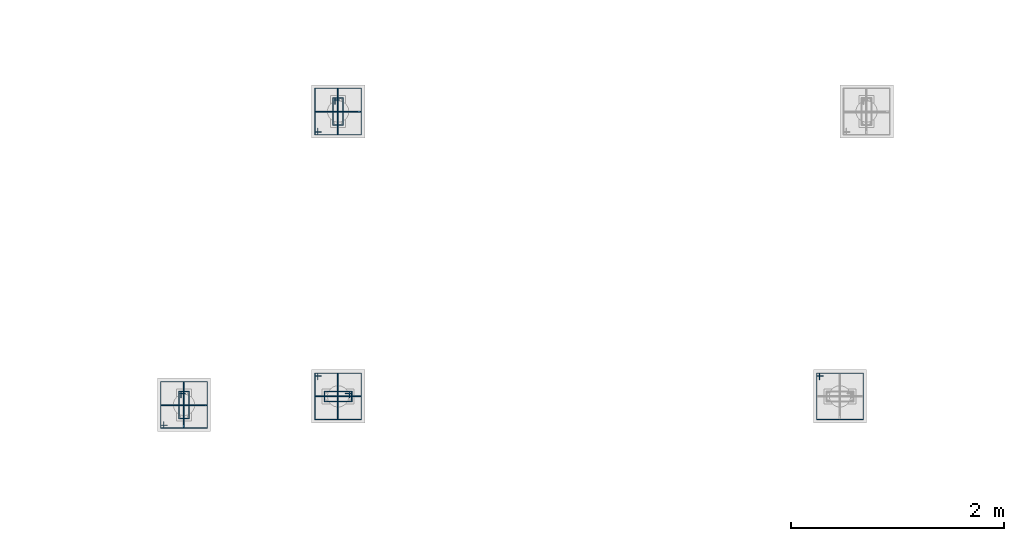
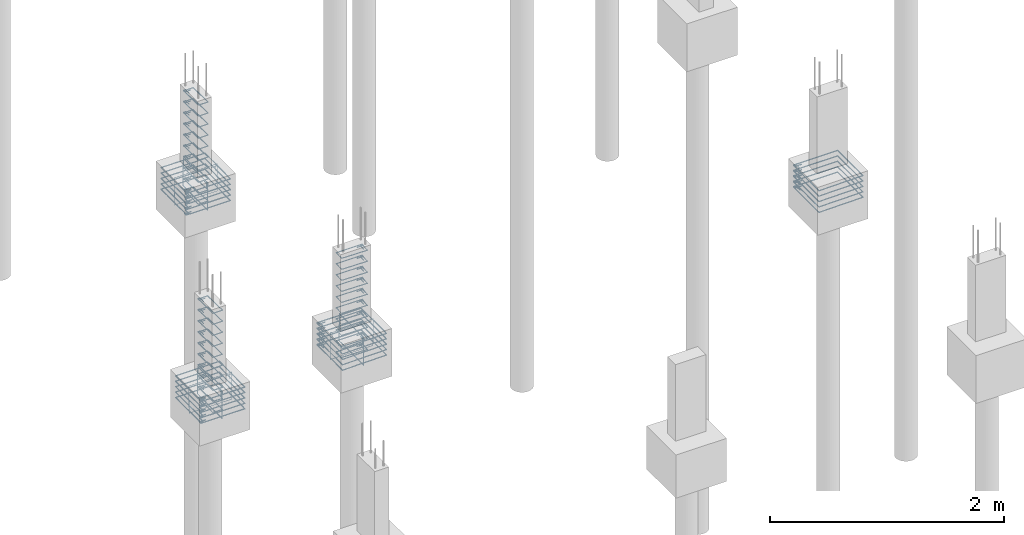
# One storey, part 109 of 119: 56 reinforcing bars.
"""IFC4 building model written with IfcOpenShell, lengths in centimetres."""

from ifc_helpers import new_model, entity, si_unit, derived_unit, frame, origin_with_axes, place, context, project, spatial, source, transform, mapped, element, save


model = new_model("IFC4")

# Units and contexts
model_context = context("Model", 3, precision=1e-05, world=origin_with_axes(), identifier="Body")
ifc_project = project(units=[si_unit("LENGTHUNIT", "METRE", prefix="CENTI"), si_unit("VOLUMEUNIT", "CUBIC_METRE"), si_unit("AREAUNIT", "SQUARE_METRE"), si_unit("POWERUNIT", "WATT"), si_unit("LUMINOUSFLUXUNIT", "LUMEN"), si_unit("ELECTRICCURRENTUNIT", "AMPERE"), si_unit("PRESSUREUNIT", "PASCAL", prefix="KILO"), si_unit("MASSUNIT", "GRAM", prefix="KILO"), si_unit("PLANEANGLEUNIT", "RADIAN"), derived_unit("VOLUMETRICFLOWRATEUNIT", [(si_unit("LENGTHUNIT", "METRE"), 3), (si_unit("TIMEUNIT", "SECOND"), -1)])], contexts=[model_context])

# Site, building, storey
site_placement = place(None, frame((-4000.0, 0.0, 0.0), z_axis=(0.0, 0.0, 1.0), x_axis=(1.0, 0.0, 0.0)))
site = spatial("IfcSite", under=ifc_project, at=site_placement, Name="PADRÃO")
building_placement = place(site_placement, frame((0.0, 0.0, -14.0)))
building = spatial("IfcBuilding", under=site, at=building_placement, Name="CRECHE PRÉ-ESCOLA TIPO 2")
storey_placement = place(building_placement, origin_with_axes())
storey = spatial("IfcBuildingStorey", under=building, at=storey_placement, Name="FUNDAÇÃO", CompositionType="ELEMENT", Elevation=-14.0)

# Reinforcing bars
shared_shape_1 = source(origin_with_axes(), model_context, "Body", "AdvancedSweptSolid", [
    entity("IfcSweptDiskSolid", entity("IfcCompositeCurve", [entity("IfcCompositeCurveSegment", "CONTINUOUS", True, entity("IfcPolyline", [entity("IfcCartesianPoint", [4.25, 21.75, 0.0]), entity("IfcCartesianPoint", [4.25, 27.75, 0.0])])), entity("IfcCompositeCurveSegment", "CONTINUOUS", True, entity("IfcPolyline", [entity("IfcCartesianPoint", [4.25, 27.75, 0.0]), entity("IfcCartesianPoint", [2.25, 27.75, 0.0])])), entity("IfcCompositeCurveSegment", "CONTINUOUS", True, entity("IfcPolyline", [entity("IfcCartesianPoint", [2.25, 27.75, 0.0]), entity("IfcCartesianPoint", [2.25, 2.25, 0.0])])), entity("IfcCompositeCurveSegment", "CONTINUOUS", True, entity("IfcPolyline", [entity("IfcCartesianPoint", [2.25, 2.25, 0.0]), entity("IfcCartesianPoint", [11.75, 2.25, 0.0])])), entity("IfcCompositeCurveSegment", "CONTINUOUS", True, entity("IfcPolyline", [entity("IfcCartesianPoint", [11.75, 2.25, 0.0]), entity("IfcCartesianPoint", [11.75, 27.75, -0.5])])), entity("IfcCompositeCurveSegment", "CONTINUOUS", True, entity("IfcPolyline", [entity("IfcCartesianPoint", [11.75, 27.75, -0.5]), entity("IfcCartesianPoint", [2.25, 27.75, -0.5])])), entity("IfcCompositeCurveSegment", "CONTINUOUS", True, entity("IfcPolyline", [entity("IfcCartesianPoint", [2.25, 27.75, -0.5]), entity("IfcCartesianPoint", [2.25, 25.75, -0.5])])), entity("IfcCompositeCurveSegment", "CONTINUOUS", True, entity("IfcPolyline", [entity("IfcCartesianPoint", [2.25, 25.75, -0.5]), entity("IfcCartesianPoint", [8.25, 25.75, -0.5])]))], False), 0.25),
])
for number, where, z_axis, x_axis, name in (
    (1, (2661.0, 3449.58, -5.75), (0.0, 0.0, 1.0), (1.0, 0.0, 0.0), "P43 - Estribo"),
    (2, (2661.0, 3449.58, -17.25), (0.0, 0.0, 1.0), (1.0, 0.0, 0.0), "P43 - Estribo"),
    (3, (2661.0, 3449.58, -40.25), (0.0, 0.0, 1.0), (1.0, 0.0, 0.0), "P43 - Estribo"),
    (4, (2661.0, 3449.58, -51.75), (0.0, 0.0, 1.0), (1.0, 0.0, 0.0), "P43 - Estribo"),
    (5, (2661.0, 3449.58, -63.25), (0.0, 0.0, 1.0), (1.0, 0.0, 0.0), "P43 - Estribo"),
    (6, (2661.0, 3449.58, -74.75), (0.0, 0.0, 1.0), (1.0, 0.0, 0.0), "P43 - Estribo"),
    (7, (2661.0, 3449.58, -86.25), (0.0, 0.0, 1.0), (1.0, 0.0, 0.0), "P43 - Estribo"),
    (8, (2661.0, 3449.58, -97.75), (0.0, 0.0, 1.0), (1.0, 0.0, 0.0), "P43 - Estribo"),
    (9, (2661.0, 3449.58, -109.25), (0.0, 0.0, 1.0), (1.0, 0.0, 0.0), "P43 - Estribo"),
    (10, (2661.0, 3449.58, -28.75), (0.0, 0.0, 1.0), (1.0, 0.0, 0.0), "P43 - Estribo"),
):
    element("IfcReinforcingBar", number, at=place(storey_placement, frame(where, z_axis=z_axis, x_axis=x_axis)), inside=storey, Name=name, BarLength=0.0, CrossSectionArea=1.9634954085e-05, NominalDiameter=0.5, PredefinedType="MAIN", context=model_context, shape_type="MappedRepresentation", body=[
        mapped(shared_shape_1, transform((0.0, 0.0, 0.0), scale=1.0)),
    ])
shared_shape_2 = source(origin_with_axes(), model_context, "Body", "AdvancedSweptSolid", [
    entity("IfcSweptDiskSolid", entity("IfcCompositeCurve", [entity("IfcCompositeCurveSegment", "CONTINUOUS", True, entity("IfcPolyline", [entity("IfcCartesianPoint", [2652.575, 3445.415, 0.0]), entity("IfcCartesianPoint", [2646.315, 3445.415, 0.0])])), entity("IfcCompositeCurveSegment", "CONTINUOUS", True, entity("IfcPolyline", [entity("IfcCartesianPoint", [2646.315, 3445.415, 0.0]), entity("IfcCartesianPoint", [2646.315, 3442.895, 0.0])])), entity("IfcCompositeCurveSegment", "CONTINUOUS", True, entity("IfcPolyline", [entity("IfcCartesianPoint", [2646.315, 3442.895, 0.0]), entity("IfcCartesianPoint", [2689.685, 3442.895, 0.0])])), entity("IfcCompositeCurveSegment", "CONTINUOUS", True, entity("IfcPolyline", [entity("IfcCartesianPoint", [2689.685, 3442.895, 0.0]), entity("IfcCartesianPoint", [2689.685, 3486.265, 0.63])])), entity("IfcCompositeCurveSegment", "CONTINUOUS", True, entity("IfcPolyline", [entity("IfcCartesianPoint", [2689.685, 3486.265, 0.63]), entity("IfcCartesianPoint", [2646.315, 3486.265, 0.63])])), entity("IfcCompositeCurveSegment", "CONTINUOUS", True, entity("IfcPolyline", [entity("IfcCartesianPoint", [2646.315, 3486.265, 0.63]), entity("IfcCartesianPoint", [2646.315, 3442.895, 0.63])])), entity("IfcCompositeCurveSegment", "CONTINUOUS", True, entity("IfcPolyline", [entity("IfcCartesianPoint", [2646.315, 3442.895, 0.63]), entity("IfcCartesianPoint", [2648.835, 3442.895, 0.63])])), entity("IfcCompositeCurveSegment", "CONTINUOUS", True, entity("IfcPolyline", [entity("IfcCartesianPoint", [2648.835, 3442.895, 0.63]), entity("IfcCartesianPoint", [2648.835, 3449.155, 0.63])]))], False), 0.315),
])
for number, where, z_axis, x_axis, name in (
    (11, (0.0, 0.0, -86.575), (0.0, 0.0, 1.0), (1.0, 0.0, 0.0), "P43 - Blocos (estribos)"),
    (12, (0.0, 0.0, -92.225), (0.0, 0.0, 1.0), (1.0, 0.0, 0.0), "P43 - Blocos (estribos)"),
    (13, (0.0, 0.0, -97.875), (0.0, 0.0, 1.0), (1.0, 0.0, 0.0), "P43 - Blocos (estribos)"),
    (14, (0.0, 0.0, -103.525), (0.0, 0.0, 1.0), (1.0, 0.0, 0.0), "P43 - Blocos (estribos)"),
    (15, (0.0, 0.0, -109.175), (0.0, 0.0, 1.0), (1.0, 0.0, 0.0), "P43 - Blocos (estribos)"),
):
    element("IfcReinforcingBar", number, at=place(storey_placement, frame(where, z_axis=z_axis, x_axis=x_axis)), inside=storey, Name=name, BarLength=0.0, CrossSectionArea=3.1172453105e-05, NominalDiameter=0.63, PredefinedType="MAIN", context=model_context, shape_type="MappedRepresentation", body=[
        mapped(shared_shape_2, transform((0.0, 0.0, 0.0), scale=1.0)),
    ])
shared_shape_3 = source(origin_with_axes(), model_context, "Body", "AdvancedSweptSolid", [
    entity("IfcSweptDiskSolid", entity("IfcCompositeCurve", [entity("IfcCompositeCurveSegment", "CONTINUOUS", True, entity("IfcPolyline", [entity("IfcCartesianPoint", [-15.12, -12.0, 0.0]), entity("IfcCartesianPoint", [-21.12, -12.0, 0.0])])), entity("IfcCompositeCurveSegment", "CONTINUOUS", True, entity("IfcPolyline", [entity("IfcCartesianPoint", [-21.12, -12.0, 0.0]), entity("IfcCartesianPoint", [-21.12, -14.0, 0.0])])), entity("IfcCompositeCurveSegment", "CONTINUOUS", True, entity("IfcPolyline", [entity("IfcCartesianPoint", [-21.12, -14.0, 0.0]), entity("IfcCartesianPoint", [21.12, -14.0, 0.0])])), entity("IfcCompositeCurveSegment", "CONTINUOUS", True, entity("IfcPolyline", [entity("IfcCartesianPoint", [21.12, -14.0, 0.0]), entity("IfcCartesianPoint", [21.12, 14.0, 0.5])])), entity("IfcCompositeCurveSegment", "CONTINUOUS", True, entity("IfcPolyline", [entity("IfcCartesianPoint", [21.12, 14.0, 0.5]), entity("IfcCartesianPoint", [-21.12, 14.0, 0.5])])), entity("IfcCompositeCurveSegment", "CONTINUOUS", True, entity("IfcPolyline", [entity("IfcCartesianPoint", [-21.12, 14.0, 0.5]), entity("IfcCartesianPoint", [-21.12, -14.0, 0.5])])), entity("IfcCompositeCurveSegment", "CONTINUOUS", True, entity("IfcPolyline", [entity("IfcCartesianPoint", [-21.12, -14.0, 0.5]), entity("IfcCartesianPoint", [-19.12, -14.0, 0.5])])), entity("IfcCompositeCurveSegment", "CONTINUOUS", True, entity("IfcPolyline", [entity("IfcCartesianPoint", [-19.12, -14.0, 0.5]), entity("IfcCartesianPoint", [-19.12, -8.0, 0.5])]))], False), 0.25),
])
reinforcing_bar_1_placement = place(storey_placement, frame((2668.0, 3464.58, -97.75), z_axis=(-1.0, 0.0, 0.0), x_axis=(0.0, 1.0, 0.0)))
element("IfcReinforcingBar", 16, at=reinforcing_bar_1_placement, inside=storey, Name="P43 - Blocos (estribos)", BarLength=0.0, CrossSectionArea=1.9634954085e-05, NominalDiameter=0.5, PredefinedType="MAIN", context=model_context, shape_type="MappedRepresentation", body=[
    mapped(shared_shape_3, transform((0.0, 0.0, 0.0), scale=1.0)),
])
shared_shape_4 = source(origin_with_axes(), model_context, "Body", "AdvancedSweptSolid", [
    entity("IfcSweptDiskSolid", entity("IfcCompositeCurve", [entity("IfcCompositeCurveSegment", "CONTINUOUS", True, entity("IfcPolyline", [entity("IfcCartesianPoint", [-15.12, -12.0, 0.0]), entity("IfcCartesianPoint", [-21.12, -12.0, 0.0])])), entity("IfcCompositeCurveSegment", "CONTINUOUS", True, entity("IfcPolyline", [entity("IfcCartesianPoint", [-21.12, -12.0, 0.0]), entity("IfcCartesianPoint", [-21.12, -14.0, 0.0])])), entity("IfcCompositeCurveSegment", "CONTINUOUS", True, entity("IfcPolyline", [entity("IfcCartesianPoint", [-21.12, -14.0, 0.0]), entity("IfcCartesianPoint", [21.12, -14.0, 0.0])])), entity("IfcCompositeCurveSegment", "CONTINUOUS", True, entity("IfcPolyline", [entity("IfcCartesianPoint", [21.12, -14.0, 0.0]), entity("IfcCartesianPoint", [21.12, 14.0, 0.5])])), entity("IfcCompositeCurveSegment", "CONTINUOUS", True, entity("IfcPolyline", [entity("IfcCartesianPoint", [21.12, 14.0, 0.5]), entity("IfcCartesianPoint", [-21.12, 14.0, 0.5])])), entity("IfcCompositeCurveSegment", "CONTINUOUS", True, entity("IfcPolyline", [entity("IfcCartesianPoint", [-21.12, 14.0, 0.5]), entity("IfcCartesianPoint", [-21.12, -14.0, 0.5])])), entity("IfcCompositeCurveSegment", "CONTINUOUS", True, entity("IfcPolyline", [entity("IfcCartesianPoint", [-21.12, -14.0, 0.5]), entity("IfcCartesianPoint", [-19.12, -14.0, 0.5])])), entity("IfcCompositeCurveSegment", "CONTINUOUS", True, entity("IfcPolyline", [entity("IfcCartesianPoint", [-19.12, -14.0, 0.5]), entity("IfcCartesianPoint", [-19.12, -8.0, 0.5])]))], False), 0.25),
])
reinforcing_bar_2_placement = place(storey_placement, frame((2668.0, 3464.58, -97.75), z_axis=(0.0, -1.0, 0.0), x_axis=(-1.0, 0.0, 0.0)))
element("IfcReinforcingBar", 17, at=reinforcing_bar_2_placement, inside=storey, Name="P43 - Blocos (estribos)", BarLength=0.0, CrossSectionArea=1.9634954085e-05, NominalDiameter=0.5, PredefinedType="MAIN", context=model_context, shape_type="MappedRepresentation", body=[
    mapped(shared_shape_4, transform((0.0, 0.0, 0.0), scale=1.0)),
])
shared_shape_5 = source(origin_with_axes(), model_context, "Body", "AdvancedSweptSolid", [
    entity("IfcSweptDiskSolid", entity("IfcCompositeCurve", [entity("IfcCompositeCurveSegment", "CONTINUOUS", True, entity("IfcPolyline", [entity("IfcCartesianPoint", [4.25, 21.75, 0.0]), entity("IfcCartesianPoint", [4.25, 27.75, 0.0])])), entity("IfcCompositeCurveSegment", "CONTINUOUS", True, entity("IfcPolyline", [entity("IfcCartesianPoint", [4.25, 27.75, 0.0]), entity("IfcCartesianPoint", [2.25, 27.75, 0.0])])), entity("IfcCompositeCurveSegment", "CONTINUOUS", True, entity("IfcPolyline", [entity("IfcCartesianPoint", [2.25, 27.75, 0.0]), entity("IfcCartesianPoint", [2.25, 2.25, 0.0])])), entity("IfcCompositeCurveSegment", "CONTINUOUS", True, entity("IfcPolyline", [entity("IfcCartesianPoint", [2.25, 2.25, 0.0]), entity("IfcCartesianPoint", [11.75, 2.25, 0.0])])), entity("IfcCompositeCurveSegment", "CONTINUOUS", True, entity("IfcPolyline", [entity("IfcCartesianPoint", [11.75, 2.25, 0.0]), entity("IfcCartesianPoint", [11.75, 27.75, -0.5])])), entity("IfcCompositeCurveSegment", "CONTINUOUS", True, entity("IfcPolyline", [entity("IfcCartesianPoint", [11.75, 27.75, -0.5]), entity("IfcCartesianPoint", [2.25, 27.75, -0.5])])), entity("IfcCompositeCurveSegment", "CONTINUOUS", True, entity("IfcPolyline", [entity("IfcCartesianPoint", [2.25, 27.75, -0.5]), entity("IfcCartesianPoint", [2.25, 25.75, -0.5])])), entity("IfcCompositeCurveSegment", "CONTINUOUS", True, entity("IfcPolyline", [entity("IfcCartesianPoint", [2.25, 25.75, -0.5]), entity("IfcCartesianPoint", [8.25, 25.75, -0.5])]))], False), 0.25),
])
for number, where, z_axis, x_axis, name in (
    (18, (2516.5, 3174.52, -97.75), (0.0, 0.0, 1.0), (1.0, 0.0, 0.0), "P53 - Estribo"),
    (19, (2516.5, 3174.52, -86.25), (0.0, 0.0, 1.0), (1.0, 0.0, 0.0), "P53 - Estribo"),
    (20, (2516.5, 3174.52, -74.75), (0.0, 0.0, 1.0), (1.0, 0.0, 0.0), "P53 - Estribo"),
    (21, (2516.5, 3174.52, -63.25), (0.0, 0.0, 1.0), (1.0, 0.0, 0.0), "P53 - Estribo"),
    (22, (2516.5, 3174.52, -51.75), (0.0, 0.0, 1.0), (1.0, 0.0, 0.0), "P53 - Estribo"),
    (23, (2516.5, 3174.52, -40.25), (0.0, 0.0, 1.0), (1.0, 0.0, 0.0), "P53 - Estribo"),
    (24, (2516.5, 3174.52, -28.75), (0.0, 0.0, 1.0), (1.0, 0.0, 0.0), "P53 - Estribo"),
    (25, (2516.5, 3174.52, -17.25), (0.0, 0.0, 1.0), (1.0, 0.0, 0.0), "P53 - Estribo"),
    (26, (2516.5, 3174.52, -5.75), (0.0, 0.0, 1.0), (1.0, 0.0, 0.0), "P53 - Estribo"),
    (27, (2516.5, 3174.52, -109.25), (0.0, 0.0, 1.0), (1.0, 0.0, 0.0), "P53 - Estribo"),
):
    element("IfcReinforcingBar", number, at=place(storey_placement, frame(where, z_axis=z_axis, x_axis=x_axis)), inside=storey, Name=name, BarLength=0.0, CrossSectionArea=1.9634954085e-05, NominalDiameter=0.5, PredefinedType="MAIN", context=model_context, shape_type="MappedRepresentation", body=[
        mapped(shared_shape_5, transform((0.0, 0.0, 0.0), scale=1.0)),
    ])
shared_shape_6 = source(origin_with_axes(), model_context, "Body", "AdvancedSweptSolid", [
    entity("IfcSweptDiskSolid", entity("IfcCompositeCurve", [entity("IfcCompositeCurveSegment", "CONTINUOUS", True, entity("IfcPolyline", [entity("IfcCartesianPoint", [2508.075, 3170.355, 0.0]), entity("IfcCartesianPoint", [2501.815, 3170.355, 0.0])])), entity("IfcCompositeCurveSegment", "CONTINUOUS", True, entity("IfcPolyline", [entity("IfcCartesianPoint", [2501.815, 3170.355, 0.0]), entity("IfcCartesianPoint", [2501.815, 3167.835, 0.0])])), entity("IfcCompositeCurveSegment", "CONTINUOUS", True, entity("IfcPolyline", [entity("IfcCartesianPoint", [2501.815, 3167.835, 0.0]), entity("IfcCartesianPoint", [2545.185, 3167.835, 0.0])])), entity("IfcCompositeCurveSegment", "CONTINUOUS", True, entity("IfcPolyline", [entity("IfcCartesianPoint", [2545.185, 3167.835, 0.0]), entity("IfcCartesianPoint", [2545.185, 3211.205, 0.63])])), entity("IfcCompositeCurveSegment", "CONTINUOUS", True, entity("IfcPolyline", [entity("IfcCartesianPoint", [2545.185, 3211.205, 0.63]), entity("IfcCartesianPoint", [2501.815, 3211.205, 0.63])])), entity("IfcCompositeCurveSegment", "CONTINUOUS", True, entity("IfcPolyline", [entity("IfcCartesianPoint", [2501.815, 3211.205, 0.63]), entity("IfcCartesianPoint", [2501.815, 3167.835, 0.63])])), entity("IfcCompositeCurveSegment", "CONTINUOUS", True, entity("IfcPolyline", [entity("IfcCartesianPoint", [2501.815, 3167.835, 0.63]), entity("IfcCartesianPoint", [2504.335, 3167.835, 0.63])])), entity("IfcCompositeCurveSegment", "CONTINUOUS", True, entity("IfcPolyline", [entity("IfcCartesianPoint", [2504.335, 3167.835, 0.63]), entity("IfcCartesianPoint", [2504.335, 3174.095, 0.63])]))], False), 0.315),
])
for number, where, z_axis, x_axis, name in (
    (28, (0.0, 0.0, -86.575), (0.0, 0.0, 1.0), (1.0, 0.0, 0.0), "P53 - Blocos (estribos)"),
    (29, (0.0, 0.0, -92.225), (0.0, 0.0, 1.0), (1.0, 0.0, 0.0), "P53 - Blocos (estribos)"),
    (30, (0.0, 0.0, -103.525), (0.0, 0.0, 1.0), (1.0, 0.0, 0.0), "P53 - Blocos (estribos)"),
    (31, (0.0, 0.0, -109.175), (0.0, 0.0, 1.0), (1.0, 0.0, 0.0), "P53 - Blocos (estribos)"),
    (32, (0.0, 0.0, -97.875), (0.0, 0.0, 1.0), (1.0, 0.0, 0.0), "P53 - Blocos (estribos)"),
):
    element("IfcReinforcingBar", number, at=place(storey_placement, frame(where, z_axis=z_axis, x_axis=x_axis)), inside=storey, Name=name, BarLength=0.0, CrossSectionArea=3.1172453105e-05, NominalDiameter=0.63, PredefinedType="MAIN", context=model_context, shape_type="MappedRepresentation", body=[
        mapped(shared_shape_6, transform((0.0, 0.0, 0.0), scale=1.0)),
    ])
shared_shape_7 = source(origin_with_axes(), model_context, "Body", "AdvancedSweptSolid", [
    entity("IfcSweptDiskSolid", entity("IfcCompositeCurve", [entity("IfcCompositeCurveSegment", "CONTINUOUS", True, entity("IfcPolyline", [entity("IfcCartesianPoint", [-15.12, -12.0, 0.0]), entity("IfcCartesianPoint", [-21.12, -12.0, 0.0])])), entity("IfcCompositeCurveSegment", "CONTINUOUS", True, entity("IfcPolyline", [entity("IfcCartesianPoint", [-21.12, -12.0, 0.0]), entity("IfcCartesianPoint", [-21.12, -14.0, 0.0])])), entity("IfcCompositeCurveSegment", "CONTINUOUS", True, entity("IfcPolyline", [entity("IfcCartesianPoint", [-21.12, -14.0, 0.0]), entity("IfcCartesianPoint", [21.12, -14.0, 0.0])])), entity("IfcCompositeCurveSegment", "CONTINUOUS", True, entity("IfcPolyline", [entity("IfcCartesianPoint", [21.12, -14.0, 0.0]), entity("IfcCartesianPoint", [21.12, 14.0, 0.5])])), entity("IfcCompositeCurveSegment", "CONTINUOUS", True, entity("IfcPolyline", [entity("IfcCartesianPoint", [21.12, 14.0, 0.5]), entity("IfcCartesianPoint", [-21.12, 14.0, 0.5])])), entity("IfcCompositeCurveSegment", "CONTINUOUS", True, entity("IfcPolyline", [entity("IfcCartesianPoint", [-21.12, 14.0, 0.5]), entity("IfcCartesianPoint", [-21.12, -14.0, 0.5])])), entity("IfcCompositeCurveSegment", "CONTINUOUS", True, entity("IfcPolyline", [entity("IfcCartesianPoint", [-21.12, -14.0, 0.5]), entity("IfcCartesianPoint", [-19.12, -14.0, 0.5])])), entity("IfcCompositeCurveSegment", "CONTINUOUS", True, entity("IfcPolyline", [entity("IfcCartesianPoint", [-19.12, -14.0, 0.5]), entity("IfcCartesianPoint", [-19.12, -8.0, 0.5])]))], False), 0.25),
])
reinforcing_bar_3_placement = place(storey_placement, frame((2523.5, 3189.52, -97.75), z_axis=(-1.0, 0.0, 0.0), x_axis=(0.0, 1.0, 0.0)))
element("IfcReinforcingBar", 33, at=reinforcing_bar_3_placement, inside=storey, Name="P53 - Blocos (estribos)", BarLength=0.0, CrossSectionArea=1.9634954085e-05, NominalDiameter=0.5, PredefinedType="MAIN", context=model_context, shape_type="MappedRepresentation", body=[
    mapped(shared_shape_7, transform((0.0, 0.0, 0.0), scale=1.0)),
])
shared_shape_8 = source(origin_with_axes(), model_context, "Body", "AdvancedSweptSolid", [
    entity("IfcSweptDiskSolid", entity("IfcCompositeCurve", [entity("IfcCompositeCurveSegment", "CONTINUOUS", True, entity("IfcPolyline", [entity("IfcCartesianPoint", [-15.12, -12.0, 0.0]), entity("IfcCartesianPoint", [-21.12, -12.0, 0.0])])), entity("IfcCompositeCurveSegment", "CONTINUOUS", True, entity("IfcPolyline", [entity("IfcCartesianPoint", [-21.12, -12.0, 0.0]), entity("IfcCartesianPoint", [-21.12, -14.0, 0.0])])), entity("IfcCompositeCurveSegment", "CONTINUOUS", True, entity("IfcPolyline", [entity("IfcCartesianPoint", [-21.12, -14.0, 0.0]), entity("IfcCartesianPoint", [21.12, -14.0, 0.0])])), entity("IfcCompositeCurveSegment", "CONTINUOUS", True, entity("IfcPolyline", [entity("IfcCartesianPoint", [21.12, -14.0, 0.0]), entity("IfcCartesianPoint", [21.12, 14.0, 0.5])])), entity("IfcCompositeCurveSegment", "CONTINUOUS", True, entity("IfcPolyline", [entity("IfcCartesianPoint", [21.12, 14.0, 0.5]), entity("IfcCartesianPoint", [-21.12, 14.0, 0.5])])), entity("IfcCompositeCurveSegment", "CONTINUOUS", True, entity("IfcPolyline", [entity("IfcCartesianPoint", [-21.12, 14.0, 0.5]), entity("IfcCartesianPoint", [-21.12, -14.0, 0.5])])), entity("IfcCompositeCurveSegment", "CONTINUOUS", True, entity("IfcPolyline", [entity("IfcCartesianPoint", [-21.12, -14.0, 0.5]), entity("IfcCartesianPoint", [-19.12, -14.0, 0.5])])), entity("IfcCompositeCurveSegment", "CONTINUOUS", True, entity("IfcPolyline", [entity("IfcCartesianPoint", [-19.12, -14.0, 0.5]), entity("IfcCartesianPoint", [-19.12, -8.0, 0.5])]))], False), 0.25),
])
reinforcing_bar_4_placement = place(storey_placement, frame((2523.5, 3189.52, -97.75), z_axis=(0.0, -1.0, 0.0), x_axis=(-1.0, 0.0, 0.0)))
element("IfcReinforcingBar", 34, at=reinforcing_bar_4_placement, inside=storey, Name="P53 - Blocos (estribos)", BarLength=0.0, CrossSectionArea=1.9634954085e-05, NominalDiameter=0.5, PredefinedType="MAIN", context=model_context, shape_type="MappedRepresentation", body=[
    mapped(shared_shape_8, transform((0.0, 0.0, 0.0), scale=1.0)),
])
shared_shape_9 = source(origin_with_axes(), model_context, "Body", "AdvancedSweptSolid", [
    entity("IfcSweptDiskSolid", entity("IfcCompositeCurve", [entity("IfcCompositeCurveSegment", "CONTINUOUS", True, entity("IfcPolyline", [entity("IfcCartesianPoint", [4.25, 21.75, 0.0]), entity("IfcCartesianPoint", [4.25, 27.75, 0.0])])), entity("IfcCompositeCurveSegment", "CONTINUOUS", True, entity("IfcPolyline", [entity("IfcCartesianPoint", [4.25, 27.75, 0.0]), entity("IfcCartesianPoint", [2.25, 27.75, 0.0])])), entity("IfcCompositeCurveSegment", "CONTINUOUS", True, entity("IfcPolyline", [entity("IfcCartesianPoint", [2.25, 27.75, 0.0]), entity("IfcCartesianPoint", [2.25, 2.25, 0.0])])), entity("IfcCompositeCurveSegment", "CONTINUOUS", True, entity("IfcPolyline", [entity("IfcCartesianPoint", [2.25, 2.25, 0.0]), entity("IfcCartesianPoint", [11.75, 2.25, 0.0])])), entity("IfcCompositeCurveSegment", "CONTINUOUS", True, entity("IfcPolyline", [entity("IfcCartesianPoint", [11.75, 2.25, 0.0]), entity("IfcCartesianPoint", [11.75, 27.75, -0.5])])), entity("IfcCompositeCurveSegment", "CONTINUOUS", True, entity("IfcPolyline", [entity("IfcCartesianPoint", [11.75, 27.75, -0.5]), entity("IfcCartesianPoint", [2.25, 27.75, -0.5])])), entity("IfcCompositeCurveSegment", "CONTINUOUS", True, entity("IfcPolyline", [entity("IfcCartesianPoint", [2.25, 27.75, -0.5]), entity("IfcCartesianPoint", [2.25, 25.75, -0.5])])), entity("IfcCompositeCurveSegment", "CONTINUOUS", True, entity("IfcPolyline", [entity("IfcCartesianPoint", [2.25, 25.75, -0.5]), entity("IfcCartesianPoint", [8.25, 25.75, -0.5])]))], False), 0.25),
])
for number, where, z_axis, x_axis, name in (
    (35, (2653.0, 3204.52, -109.25), (0.0, 0.0, 1.0), (0.0, -1.0, 0.0), "P54 - Estribo"),
    (36, (2653.0, 3204.52, -97.75), (0.0, 0.0, 1.0), (0.0, -1.0, 0.0), "P54 - Estribo"),
    (37, (2653.0, 3204.52, -74.75), (0.0, 0.0, 1.0), (0.0, -1.0, 0.0), "P54 - Estribo"),
    (38, (2653.0, 3204.52, -86.25), (0.0, 0.0, 1.0), (0.0, -1.0, 0.0), "P54 - Estribo"),
    (39, (2653.0, 3204.52, -51.75), (0.0, 0.0, 1.0), (0.0, -1.0, 0.0), "P54 - Estribo"),
    (40, (2653.0, 3204.52, -63.25), (0.0, 0.0, 1.0), (0.0, -1.0, 0.0), "P54 - Estribo"),
    (41, (2653.0, 3204.52, -40.25), (0.0, 0.0, 1.0), (0.0, -1.0, 0.0), "P54 - Estribo"),
    (42, (2653.0, 3204.52, -28.75), (0.0, 0.0, 1.0), (0.0, -1.0, 0.0), "P54 - Estribo"),
    (43, (2653.0, 3204.52, -17.25), (0.0, 0.0, 1.0), (0.0, -1.0, 0.0), "P54 - Estribo"),
    (44, (2653.0, 3204.52, -5.75), (0.0, 0.0, 1.0), (0.0, -1.0, 0.0), "P54 - Estribo"),
):
    element("IfcReinforcingBar", number, at=place(storey_placement, frame(where, z_axis=z_axis, x_axis=x_axis)), inside=storey, Name=name, BarLength=0.0, CrossSectionArea=1.9634954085e-05, NominalDiameter=0.5, PredefinedType="MAIN", context=model_context, shape_type="MappedRepresentation", body=[
        mapped(shared_shape_9, transform((0.0, 0.0, 0.0), scale=1.0)),
    ])
shared_shape_10 = source(origin_with_axes(), model_context, "Body", "AdvancedSweptSolid", [
    entity("IfcSweptDiskSolid", entity("IfcCompositeCurve", [entity("IfcCompositeCurveSegment", "CONTINUOUS", True, entity("IfcPolyline", [entity("IfcCartesianPoint", [2648.835, 3212.945, 0.0]), entity("IfcCartesianPoint", [2648.835, 3219.205, 0.0])])), entity("IfcCompositeCurveSegment", "CONTINUOUS", True, entity("IfcPolyline", [entity("IfcCartesianPoint", [2648.835, 3219.205, 0.0]), entity("IfcCartesianPoint", [2646.315, 3219.205, 0.0])])), entity("IfcCompositeCurveSegment", "CONTINUOUS", True, entity("IfcPolyline", [entity("IfcCartesianPoint", [2646.315, 3219.205, 0.0]), entity("IfcCartesianPoint", [2646.315, 3175.835, 0.0])])), entity("IfcCompositeCurveSegment", "CONTINUOUS", True, entity("IfcPolyline", [entity("IfcCartesianPoint", [2646.315, 3175.835, 0.0]), entity("IfcCartesianPoint", [2689.685, 3175.835, 0.63])])), entity("IfcCompositeCurveSegment", "CONTINUOUS", True, entity("IfcPolyline", [entity("IfcCartesianPoint", [2689.685, 3175.835, 0.63]), entity("IfcCartesianPoint", [2689.685, 3219.205, 0.63])])), entity("IfcCompositeCurveSegment", "CONTINUOUS", True, entity("IfcPolyline", [entity("IfcCartesianPoint", [2689.685, 3219.205, 0.63]), entity("IfcCartesianPoint", [2646.315, 3219.205, 0.63])])), entity("IfcCompositeCurveSegment", "CONTINUOUS", True, entity("IfcPolyline", [entity("IfcCartesianPoint", [2646.315, 3219.205, 0.63]), entity("IfcCartesianPoint", [2646.315, 3216.685, 0.63])])), entity("IfcCompositeCurveSegment", "CONTINUOUS", True, entity("IfcPolyline", [entity("IfcCartesianPoint", [2646.315, 3216.685, 0.63]), entity("IfcCartesianPoint", [2652.575, 3216.685, 0.63])]))], False), 0.315),
])
for number, where, z_axis, x_axis, name in (
    (45, (0.0, 0.0, -109.175), (0.0, 0.0, 1.0), (1.0, 0.0, 0.0), "P54 - Blocos (estribos)"),
    (46, (0.0, 0.0, -103.525), (0.0, 0.0, 1.0), (1.0, 0.0, 0.0), "P54 - Blocos (estribos)"),
    (47, (0.0, 0.0, -92.225), (0.0, 0.0, 1.0), (1.0, 0.0, 0.0), "P54 - Blocos (estribos)"),
    (48, (0.0, 0.0, -86.575), (0.0, 0.0, 1.0), (1.0, 0.0, 0.0), "P54 - Blocos (estribos)"),
    (49, (0.0, 0.0, -97.875), (0.0, 0.0, 1.0), (1.0, 0.0, 0.0), "P54 - Blocos (estribos)"),
):
    element("IfcReinforcingBar", number, at=place(storey_placement, frame(where, z_axis=z_axis, x_axis=x_axis)), inside=storey, Name=name, BarLength=0.0, CrossSectionArea=3.1172453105e-05, NominalDiameter=0.63, PredefinedType="MAIN", context=model_context, shape_type="MappedRepresentation", body=[
        mapped(shared_shape_10, transform((0.0, 0.0, 0.0), scale=1.0)),
    ])
shared_shape_11 = source(origin_with_axes(), model_context, "Body", "AdvancedSweptSolid", [
    entity("IfcSweptDiskSolid", entity("IfcCompositeCurve", [entity("IfcCompositeCurveSegment", "CONTINUOUS", True, entity("IfcPolyline", [entity("IfcCartesianPoint", [-15.12, -12.0, 0.0]), entity("IfcCartesianPoint", [-21.12, -12.0, 0.0])])), entity("IfcCompositeCurveSegment", "CONTINUOUS", True, entity("IfcPolyline", [entity("IfcCartesianPoint", [-21.12, -12.0, 0.0]), entity("IfcCartesianPoint", [-21.12, -14.0, 0.0])])), entity("IfcCompositeCurveSegment", "CONTINUOUS", True, entity("IfcPolyline", [entity("IfcCartesianPoint", [-21.12, -14.0, 0.0]), entity("IfcCartesianPoint", [21.12, -14.0, 0.0])])), entity("IfcCompositeCurveSegment", "CONTINUOUS", True, entity("IfcPolyline", [entity("IfcCartesianPoint", [21.12, -14.0, 0.0]), entity("IfcCartesianPoint", [21.12, 14.0, 0.5])])), entity("IfcCompositeCurveSegment", "CONTINUOUS", True, entity("IfcPolyline", [entity("IfcCartesianPoint", [21.12, 14.0, 0.5]), entity("IfcCartesianPoint", [-21.12, 14.0, 0.5])])), entity("IfcCompositeCurveSegment", "CONTINUOUS", True, entity("IfcPolyline", [entity("IfcCartesianPoint", [-21.12, 14.0, 0.5]), entity("IfcCartesianPoint", [-21.12, -14.0, 0.5])])), entity("IfcCompositeCurveSegment", "CONTINUOUS", True, entity("IfcPolyline", [entity("IfcCartesianPoint", [-21.12, -14.0, 0.5]), entity("IfcCartesianPoint", [-19.12, -14.0, 0.5])])), entity("IfcCompositeCurveSegment", "CONTINUOUS", True, entity("IfcPolyline", [entity("IfcCartesianPoint", [-19.12, -14.0, 0.5]), entity("IfcCartesianPoint", [-19.12, -8.0, 0.5])]))], False), 0.25),
])
reinforcing_bar_5_placement = place(storey_placement, frame((2668.0, 3197.52, -97.75), z_axis=(0.0, 1.0, 0.0), x_axis=(1.0, 0.0, 0.0)))
element("IfcReinforcingBar", 50, at=reinforcing_bar_5_placement, inside=storey, Name="P54 - Blocos (estribos)", BarLength=0.0, CrossSectionArea=1.9634954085e-05, NominalDiameter=0.5, PredefinedType="MAIN", context=model_context, shape_type="MappedRepresentation", body=[
    mapped(shared_shape_11, transform((0.0, 0.0, 0.0), scale=1.0)),
])
shared_shape_12 = source(origin_with_axes(), model_context, "Body", "AdvancedSweptSolid", [
    entity("IfcSweptDiskSolid", entity("IfcCompositeCurve", [entity("IfcCompositeCurveSegment", "CONTINUOUS", True, entity("IfcPolyline", [entity("IfcCartesianPoint", [-15.12, -12.0, 0.0]), entity("IfcCartesianPoint", [-21.12, -12.0, 0.0])])), entity("IfcCompositeCurveSegment", "CONTINUOUS", True, entity("IfcPolyline", [entity("IfcCartesianPoint", [-21.12, -12.0, 0.0]), entity("IfcCartesianPoint", [-21.12, -14.0, 0.0])])), entity("IfcCompositeCurveSegment", "CONTINUOUS", True, entity("IfcPolyline", [entity("IfcCartesianPoint", [-21.12, -14.0, 0.0]), entity("IfcCartesianPoint", [21.12, -14.0, 0.0])])), entity("IfcCompositeCurveSegment", "CONTINUOUS", True, entity("IfcPolyline", [entity("IfcCartesianPoint", [21.12, -14.0, 0.0]), entity("IfcCartesianPoint", [21.12, 14.0, 0.5])])), entity("IfcCompositeCurveSegment", "CONTINUOUS", True, entity("IfcPolyline", [entity("IfcCartesianPoint", [21.12, 14.0, 0.5]), entity("IfcCartesianPoint", [-21.12, 14.0, 0.5])])), entity("IfcCompositeCurveSegment", "CONTINUOUS", True, entity("IfcPolyline", [entity("IfcCartesianPoint", [-21.12, 14.0, 0.5]), entity("IfcCartesianPoint", [-21.12, -14.0, 0.5])])), entity("IfcCompositeCurveSegment", "CONTINUOUS", True, entity("IfcPolyline", [entity("IfcCartesianPoint", [-21.12, -14.0, 0.5]), entity("IfcCartesianPoint", [-19.12, -14.0, 0.5])])), entity("IfcCompositeCurveSegment", "CONTINUOUS", True, entity("IfcPolyline", [entity("IfcCartesianPoint", [-19.12, -14.0, 0.5]), entity("IfcCartesianPoint", [-19.12, -8.0, 0.5])]))], False), 0.25),
])
reinforcing_bar_6_placement = place(storey_placement, frame((2668.0, 3197.52, -97.75), z_axis=(-1.0, 0.0, 0.0), x_axis=(0.0, 1.0, 0.0)))
element("IfcReinforcingBar", 51, at=reinforcing_bar_6_placement, inside=storey, Name="P54 - Blocos (estribos)", BarLength=0.0, CrossSectionArea=1.9634954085e-05, NominalDiameter=0.5, PredefinedType="MAIN", context=model_context, shape_type="MappedRepresentation", body=[
    mapped(shared_shape_12, transform((0.0, 0.0, 0.0), scale=1.0)),
])
shared_shape_13 = source(origin_with_axes(), model_context, "Body", "AdvancedSweptSolid", [
    entity("IfcSweptDiskSolid", entity("IfcCompositeCurve", [entity("IfcCompositeCurveSegment", "CONTINUOUS", True, entity("IfcPolyline", [entity("IfcCartesianPoint", [3119.335, 3212.945, 0.0]), entity("IfcCartesianPoint", [3119.335, 3219.205, 0.0])])), entity("IfcCompositeCurveSegment", "CONTINUOUS", True, entity("IfcPolyline", [entity("IfcCartesianPoint", [3119.335, 3219.205, 0.0]), entity("IfcCartesianPoint", [3116.815, 3219.205, 0.0])])), entity("IfcCompositeCurveSegment", "CONTINUOUS", True, entity("IfcPolyline", [entity("IfcCartesianPoint", [3116.815, 3219.205, 0.0]), entity("IfcCartesianPoint", [3116.815, 3175.835, 0.0])])), entity("IfcCompositeCurveSegment", "CONTINUOUS", True, entity("IfcPolyline", [entity("IfcCartesianPoint", [3116.815, 3175.835, 0.0]), entity("IfcCartesianPoint", [3160.185, 3175.835, 0.63])])), entity("IfcCompositeCurveSegment", "CONTINUOUS", True, entity("IfcPolyline", [entity("IfcCartesianPoint", [3160.185, 3175.835, 0.63]), entity("IfcCartesianPoint", [3160.185, 3219.205, 0.63])])), entity("IfcCompositeCurveSegment", "CONTINUOUS", True, entity("IfcPolyline", [entity("IfcCartesianPoint", [3160.185, 3219.205, 0.63]), entity("IfcCartesianPoint", [3116.815, 3219.205, 0.63])])), entity("IfcCompositeCurveSegment", "CONTINUOUS", True, entity("IfcPolyline", [entity("IfcCartesianPoint", [3116.815, 3219.205, 0.63]), entity("IfcCartesianPoint", [3116.815, 3216.685, 0.63])])), entity("IfcCompositeCurveSegment", "CONTINUOUS", True, entity("IfcPolyline", [entity("IfcCartesianPoint", [3116.815, 3216.685, 0.63]), entity("IfcCartesianPoint", [3123.075, 3216.685, 0.63])]))], False), 0.315),
])
for number, where, z_axis, x_axis, name in (
    (52, (0.0, 0.0, -97.875), (0.0, 0.0, 1.0), (1.0, 0.0, 0.0), "P55 - Blocos (estribos)"),
    (53, (0.0, 0.0, -109.175), (0.0, 0.0, 1.0), (1.0, 0.0, 0.0), "P55 - Blocos (estribos)"),
    (54, (0.0, 0.0, -103.525), (0.0, 0.0, 1.0), (1.0, 0.0, 0.0), "P55 - Blocos (estribos)"),
    (55, (0.0, 0.0, -92.225), (0.0, 0.0, 1.0), (1.0, 0.0, 0.0), "P55 - Blocos (estribos)"),
    (56, (0.0, 0.0, -86.575), (0.0, 0.0, 1.0), (1.0, 0.0, 0.0), "P55 - Blocos (estribos)"),
):
    element("IfcReinforcingBar", number, at=place(storey_placement, frame(where, z_axis=z_axis, x_axis=x_axis)), inside=storey, Name=name, BarLength=0.0, CrossSectionArea=3.1172453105e-05, NominalDiameter=0.63, PredefinedType="MAIN", context=model_context, shape_type="MappedRepresentation", body=[
        mapped(shared_shape_13, transform((0.0, 0.0, 0.0), scale=1.0)),
    ])

save(model, "model.ifc")
